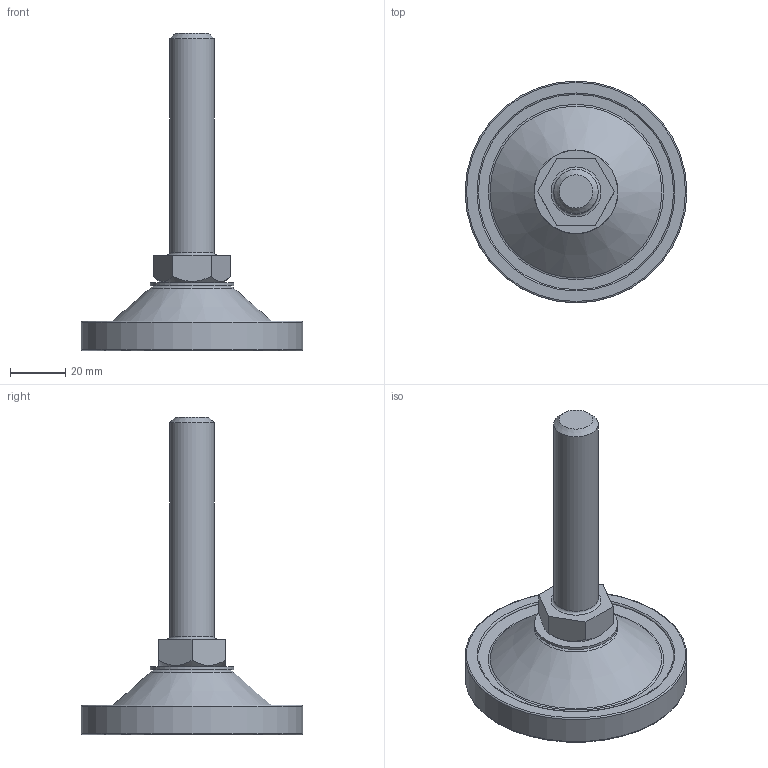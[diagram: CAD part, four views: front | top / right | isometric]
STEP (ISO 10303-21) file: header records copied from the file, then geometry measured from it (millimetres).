
FILE_DESCRIPTION(/* description */ (''),/* implementation_level */ '2;1');
FILE_NAME(/* name */ 'D:\조절자\PFR\PFR-M16-80L.stp',/* time_stamp */ '2016-03-14T15:07:02+09:00',/* author */ ('GS-DT-1-001'),/* organization */ (''),/* preprocessor_version */ 'ST-DEVELOPER v15.6',/* originating_system */ 'Autodesk Inventor LT ',/* authorisation */ '');
FILE_SCHEMA (('AUTOMOTIVE_DESIGN { 1 0 10303 214 3 1 1 }'));
Length unit declared in the file: millimetre
Products named in the file (1): PFR-M16-80L
Bounding box: 80 x 80 x 114.5 mm (x, y, z)
Volume: 67397.5 mm3; surface area: 33883.4 mm2
Topology: 5 solids, 5 shells, 76 faces, 137 edges, 83 vertices
Faces by surface type: plane 28, torus 24, cone 14, cylinder 10
Full cylindrical faces by diameter (mm): 6.912 x1, 8 x1, 8.2 x1, 8.3 x1, 16 x2, 30 x1, 74 x1, 74.4 x1, 80 x1
Entity records: 1584 total; most frequent: DIRECTION 298, CARTESIAN_POINT 251, ORIENTED_EDGE 168, AXIS2_PLACEMENT_3D 143, EDGE_LOOP 140, EDGE_CURVE 84, VERTEX_POINT 78, FACE_OUTER_BOUND 76
